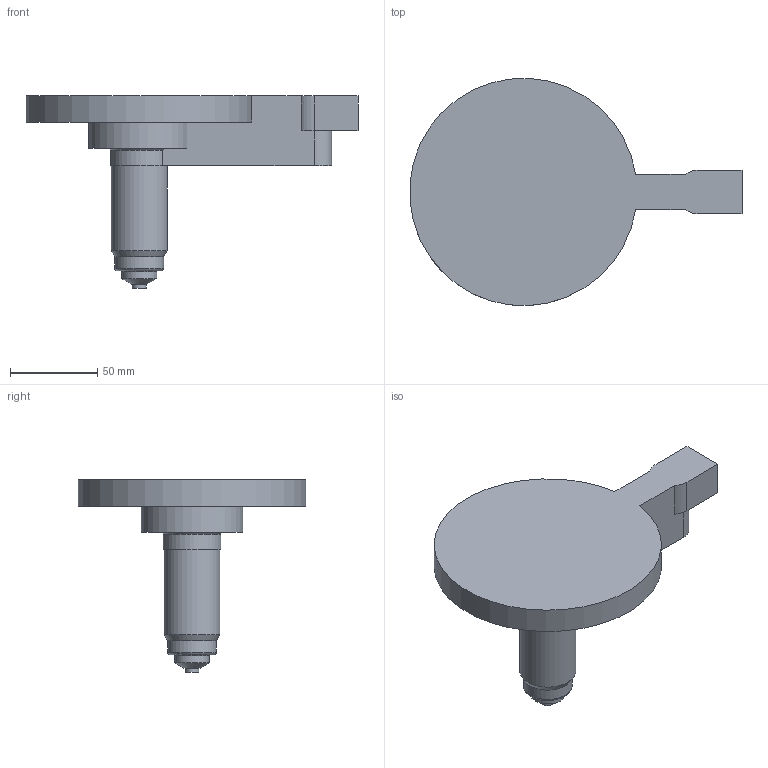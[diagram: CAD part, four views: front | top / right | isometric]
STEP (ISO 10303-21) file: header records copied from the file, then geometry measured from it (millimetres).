
FILE_DESCRIPTION( ( 'STEP AP214' ), '1' );
FILE_NAME( 'S:/PROIECTE_YUDO_2009_dupa_1.07.2009/PROIECTE YUDO 3D 01.07.2009/BLS/YUEU09-BLS18CF080/YUEU09-BLS18CF080_cutout.step', '2009-09-29T05:49:13', ( ' ' ), ( ' ' ), 'XStep 1.0', ' ', ' ' );
FILE_SCHEMA( ( 'automotive_design' ) );
Length unit declared in the file: millimetre
Products named in the file (1): 1
Bounding box: 189.76 x 129.83 x 110 mm (x, y, z)
Volume: 360915.9 mm3; surface area: 51505 mm2
Topology: 1 solids, 1 shells, 27 faces, 65 edges, 42 vertices
Faces by surface type: plane 12, cylinder 10, cone 4, torus 1
Full cylindrical faces by diameter (mm): 8 x1, 20 x1, 28 x1, 32 x1
Entity records: 966 total; most frequent: DIRECTION 132, CARTESIAN_POINT 129, ORIENTED_EDGE 110, EDGE_CURVE 55, AXIS2_PLACEMENT_3D 51, VERTEX_POINT 40, EDGE_LOOP 37, FACE_OUTER_BOUND 32
